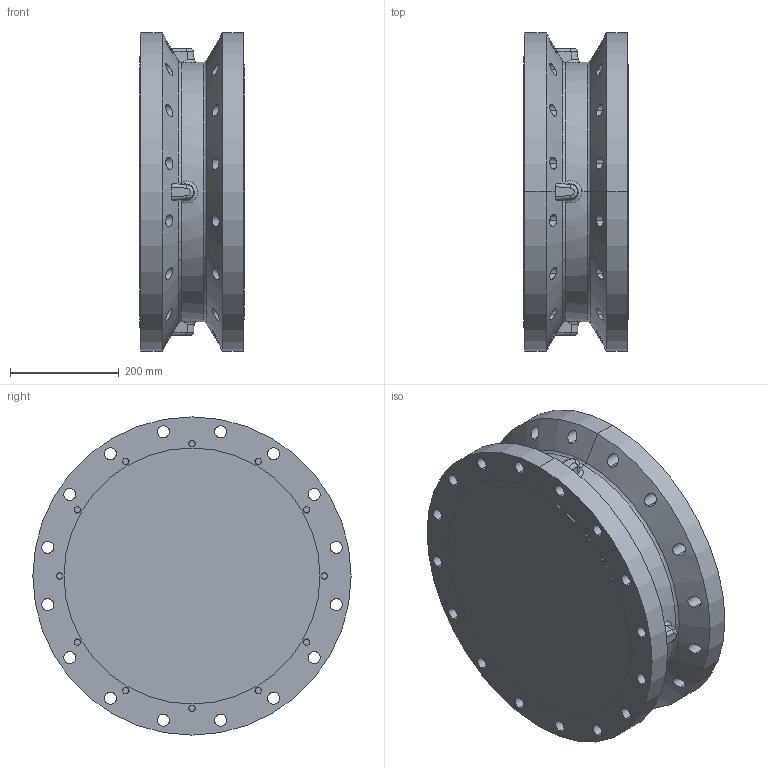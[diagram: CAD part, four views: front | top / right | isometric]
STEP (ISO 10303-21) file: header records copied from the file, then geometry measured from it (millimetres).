
FILE_DESCRIPTION (( 'STEP AP203' ), '1' );
FILE_NAME ('TLW 16_150.STEP', '2018-04-05T19:37:37', ( '' ), ( '' ), 'SwSTEP 2.0', 'SolidWorks 2017', '' );
FILE_SCHEMA (( 'CONFIG_CONTROL_DESIGN' ));
Length unit declared in the file: inch
Products named in the file (1): TLW 16_150
Bounding box: 192.02 x 584.2 x 584.2 mm (x, y, z)
Volume: 43396895.1 mm3; surface area: 1057116.1 mm2
Topology: 1 solids, 1 shells, 181 faces, 454 edges, 290 vertices
Faces by surface type: cylinder 106, cone 32, plane 29, torus 10, bspline 4
Entity records: 10315 total; most frequent: CARTESIAN_POINT 5862, ORIENTED_EDGE 908, DIRECTION 874, EDGE_CURVE 454, AXIS2_PLACEMENT_3D 362, VERTEX_POINT 290, EDGE_LOOP 260, CIRCLE 184
